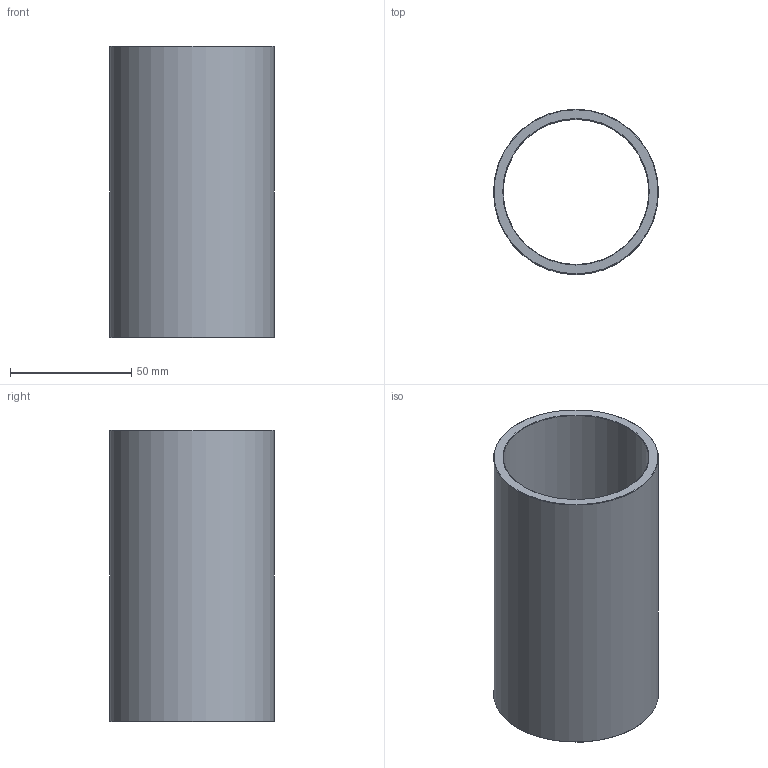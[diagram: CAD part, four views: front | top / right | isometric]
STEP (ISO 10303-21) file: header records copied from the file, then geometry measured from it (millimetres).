
FILE_DESCRIPTION(('STEP AP203'),'1');
FILE_NAME('C:/Users/Rodrigo/Desktop/GA4.060.120-1.step','2016-11-08T12:20:31',(' '),(' '),'Spatial InterOp 3D',' ',' ');
FILE_SCHEMA(('CONFIG_CONTROL_DESIGN'));
Length unit declared in the file: millimetre
Products named in the file (1): 1
Bounding box: 68 x 68 x 120 mm (x, y, z)
Volume: 96493.6 mm3; surface area: 49769.1 mm2
Topology: 1 solids, 1 shells, 8 faces, 14 edges, 8 vertices
Faces by surface type: cone 4, cylinder 2, plane 2
Full cylindrical faces by diameter (mm): 60 x1, 68 x1
Entity records: 212 total; most frequent: DIRECTION 34, CARTESIAN_POINT 25, AXIS2_PLACEMENT_3D 17, EDGE_LOOP 16, ORIENTED_EDGE 16, FACE_OUTER_BOUND 10, ADVANCED_FACE 8, EDGE_CURVE 8
